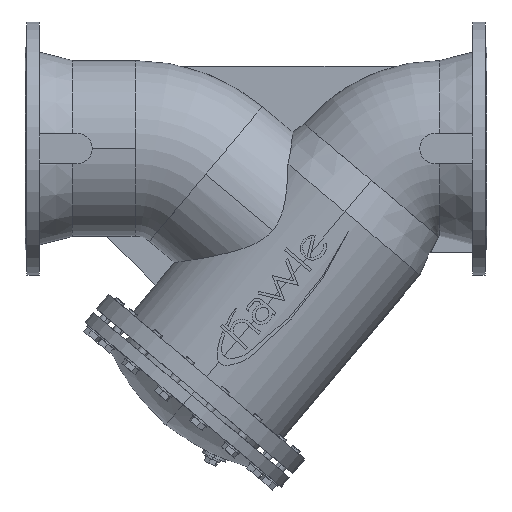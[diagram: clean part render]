
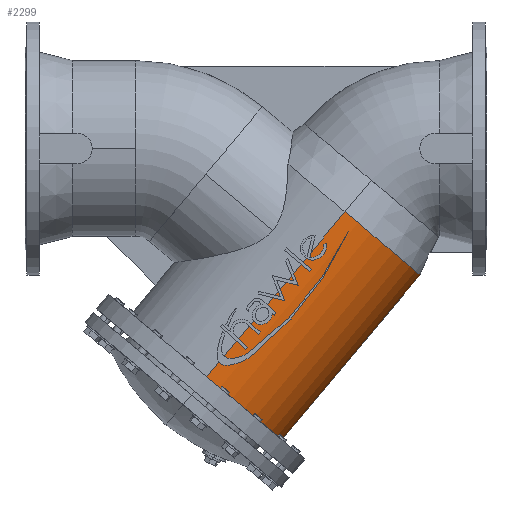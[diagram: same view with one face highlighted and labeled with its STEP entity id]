
A CAD part, front view. The second image highlights one B-rep face of the part: STEP entity #2299.
In plain terms, the highlighted cylindrical face has radius 155 mm (diameter 310 mm), a partial arc.
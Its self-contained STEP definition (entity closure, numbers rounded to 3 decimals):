
#2299=ADVANCED_FACE('',(#4343),#4344,.T.);
#4343=FACE_OUTER_BOUND('',#6735,.T.);
#4344=CYLINDRICAL_SURFACE('',#6736,155.);
#6735=EDGE_LOOP('',(#10556,#10557,#10558,#10559));
#6736=AXIS2_PLACEMENT_3D('',#10560,#10561,#10562);
#10556=ORIENTED_EDGE('',*,*,#13785,.T.);
#10557=ORIENTED_EDGE('',*,*,#12963,.T.);
#10558=ORIENTED_EDGE('',*,*,#13789,.T.);
#10559=ORIENTED_EDGE('',*,*,#13296,.T.);
#10560=CARTESIAN_POINT('',(-224.293,0.,-100.16));
#10561=DIRECTION('',(-0.643,0.,-0.766));
#10562=DIRECTION('',(0.,-1.0,0.));
#12963=EDGE_CURVE('',#15249,#15250,#15251,.T.);
#13296=EDGE_CURVE('',#15781,#15779,#15782,.T.);
#13785=EDGE_CURVE('',#15779,#15249,#16477,.T.);
#13789=EDGE_CURVE('',#15250,#15781,#16483,.T.);
#15249=VERTEX_POINT('',#18300);
#15250=VERTEX_POINT('',#18301);
#15251=CIRCLE('',#18302,155.);
#15779=VERTEX_POINT('',#19021);
#15781=VERTEX_POINT('',#19023);
#15782=CIRCLE('',#19024,155.);
#16477=LINE('',#19935,#19936);
#16483=LINE('',#20284,#20285);
#18300=CARTESIAN_POINT('',(-442.841,-155.,-360.615));
#18301=CARTESIAN_POINT('',(-442.841,155.,-360.615));
#18302=AXIS2_PLACEMENT_3D('',#21876,#21877,#21878);
#19021=CARTESIAN_POINT('',(-224.293,-155.,-100.16));
#19023=CARTESIAN_POINT('',(-224.293,155.,-100.16));
#19024=AXIS2_PLACEMENT_3D('',#22326,#22327,#22328);
#19935=CARTESIAN_POINT('',(-224.293,-155.,-100.16));
#19936=VECTOR('',#22917,1.0);
#20284=CARTESIAN_POINT('',(-224.293,155.,-100.16));
#20285=VECTOR('',#22918,1.0);
#21876=CARTESIAN_POINT('',(-442.841,0.,-360.615));
#21877=DIRECTION('',(0.643,0.,0.766));
#21878=DIRECTION('',(0.,-1.0,0.));
#22326=CARTESIAN_POINT('',(-224.293,0.,-100.16));
#22327=DIRECTION('',(-0.643,0.,-0.766));
#22328=DIRECTION('',(0.,-1.0,0.));
#22917=DIRECTION('',(-0.643,0.,-0.766));
#22918=DIRECTION('',(0.643,0.,0.766));
